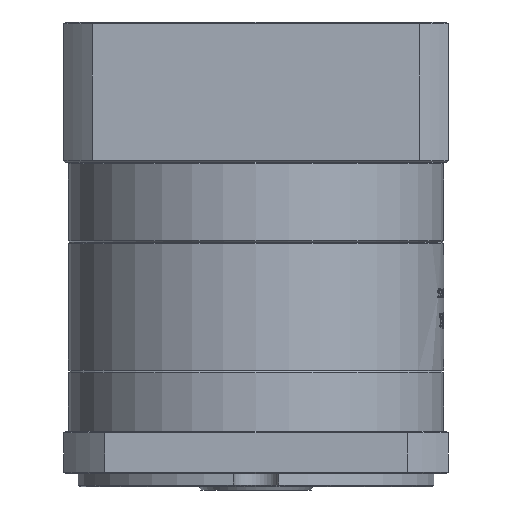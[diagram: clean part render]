
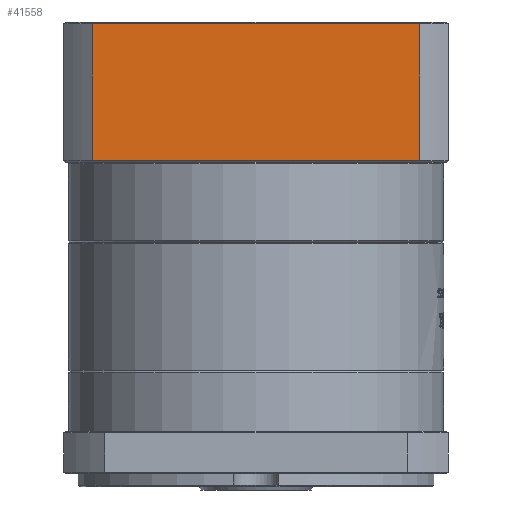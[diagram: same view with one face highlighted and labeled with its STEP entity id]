
A CAD part, front view. The second image highlights one B-rep face of the part: STEP entity #41558.
In plain terms, the highlighted planar face has unit normal (0, -1, 0).
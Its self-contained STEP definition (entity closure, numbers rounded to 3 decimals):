
#5849 = DIRECTION ( 'NONE',  ( 0., 1., 0. ) ) ;
#6724 = ORIENTED_EDGE ( 'NONE', *, *, #98378, .F. ) ;
#7323 = CARTESIAN_POINT ( 'NONE',  ( 124.381, 46.589, -243.501 ) ) ;
#7447 = ORIENTED_EDGE ( 'NONE', *, *, #15149, .F. ) ;
#7717 = EDGE_LOOP ( 'NONE', ( #75800, #6724, #66672, #7447 ) ) ;
#7778 = VERTEX_POINT ( 'NONE', #80002 ) ;
#11211 = EDGE_CURVE ( 'NONE', #28189, #7778, #15913, .T. ) ;
#11228 = CARTESIAN_POINT ( 'NONE',  ( 133.129, 46.589, -21.606 ) ) ;
#15149 = EDGE_CURVE ( 'NONE', #94528, #28189, #24173, .T. ) ;
#15878 = CARTESIAN_POINT ( 'NONE',  ( 124.381, 46.589, -21.606 ) ) ;
#15913 = LINE ( 'NONE', #41372, #60959 ) ;
#19999 = VECTOR ( 'NONE', #82835, 1000. ) ;
#22449 = VERTEX_POINT ( 'NONE', #15878 ) ;
#23491 = VECTOR ( 'NONE', #65639, 1000. ) ;
#24173 = LINE ( 'NONE', #72127, #70511 ) ;
#28189 = VERTEX_POINT ( 'NONE', #81888 ) ;
#28284 = AXIS2_PLACEMENT_3D ( 'NONE', #98679, #5849, #65057 ) ;
#33192 = DIRECTION ( 'NONE',  ( 1., 0., 0. ) ) ;
#41372 = CARTESIAN_POINT ( 'NONE',  ( 133.129, 46.589, 20.394 ) ) ;
#41558 = ADVANCED_FACE ( 'NONE', ( #108706 ), #48322, .F. ) ;
#42444 = LINE ( 'NONE', #7323, #19999 ) ;
#48322 = PLANE ( 'NONE',  #28284 ) ;
#50760 = EDGE_CURVE ( 'NONE', #94528, #22449, #86981, .T. ) ;
#55431 = DIRECTION ( 'NONE',  ( 0., 0., 1. ) ) ;
#60959 = VECTOR ( 'NONE', #33192, 1000. ) ;
#65057 = DIRECTION ( 'NONE',  ( -1., 0., 0. ) ) ;
#65639 = DIRECTION ( 'NONE',  ( 1., 0., 0. ) ) ;
#66672 = ORIENTED_EDGE ( 'NONE', *, *, #11211, .F. ) ;
#70511 = VECTOR ( 'NONE', #55431, 1000. ) ;
#72127 = CARTESIAN_POINT ( 'NONE',  ( 23.877, 46.589, 20.894 ) ) ;
#75800 = ORIENTED_EDGE ( 'NONE', *, *, #50760, .T. ) ;
#80002 = CARTESIAN_POINT ( 'NONE',  ( 124.381, 46.589, 20.394 ) ) ;
#81888 = CARTESIAN_POINT ( 'NONE',  ( 23.877, 46.589, 20.394 ) ) ;
#82835 = DIRECTION ( 'NONE',  ( 0., 0., -1. ) ) ;
#85726 = CARTESIAN_POINT ( 'NONE',  ( 23.877, 46.589, -21.606 ) ) ;
#86981 = LINE ( 'NONE', #11228, #23491 ) ;
#94528 = VERTEX_POINT ( 'NONE', #85726 ) ;
#98378 = EDGE_CURVE ( 'NONE', #7778, #22449, #42444, .T. ) ;
#98679 = CARTESIAN_POINT ( 'NONE',  ( 133.129, 46.589, 20.894 ) ) ;
#108706 = FACE_OUTER_BOUND ( 'NONE', #7717, .T. ) ;
